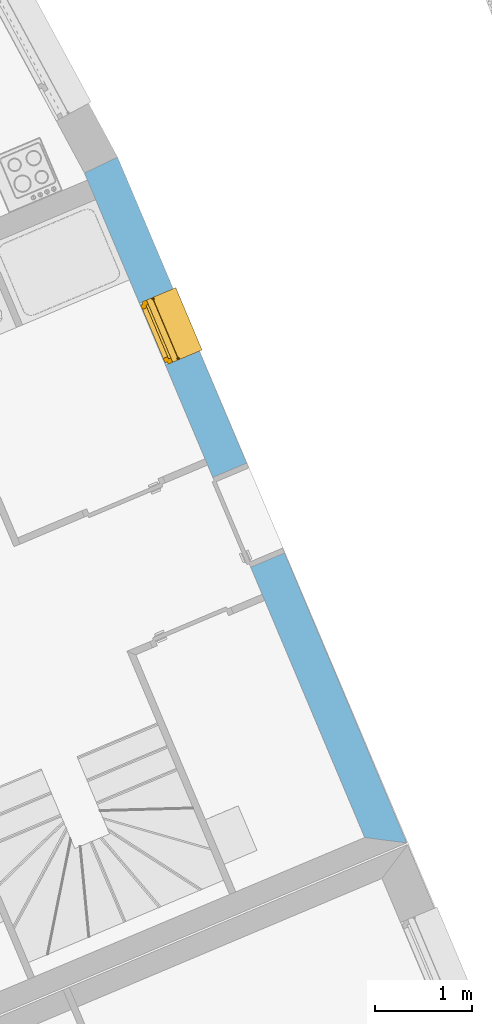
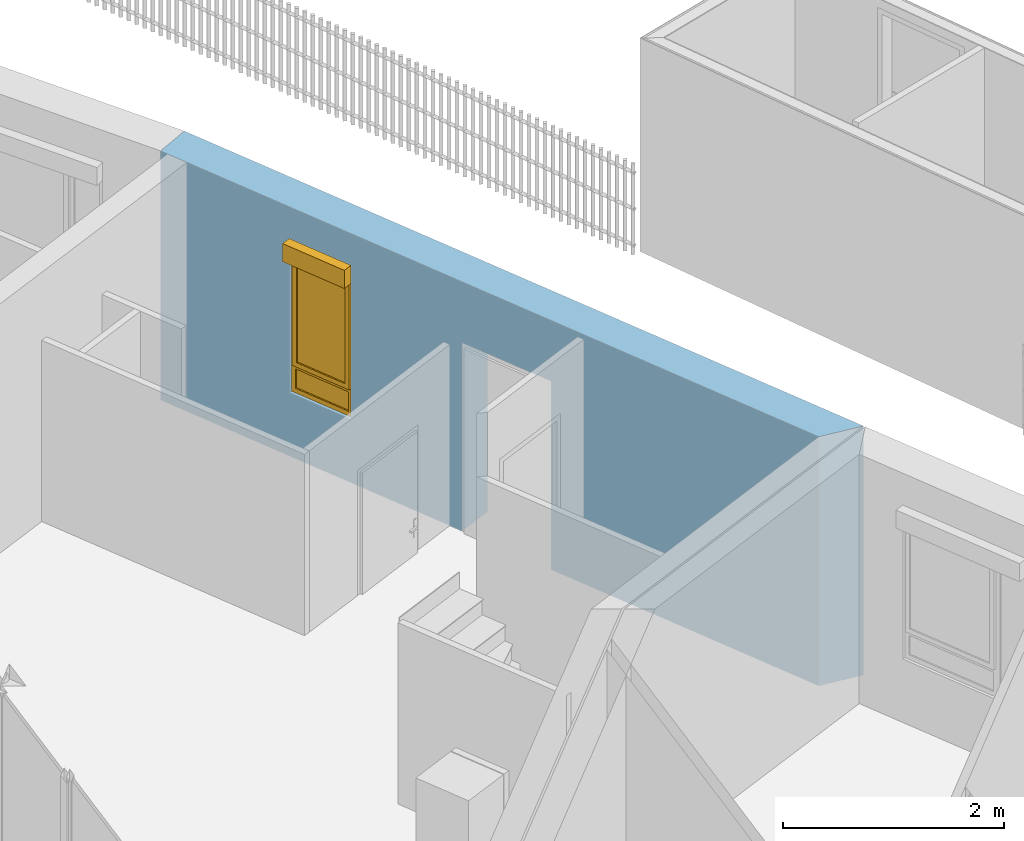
# One storey, part 64 of 195: 1 window, 2 openings, plus 1 element that does not belong to this part.
"""IFC2X3 building model written with IfcOpenShell, lengths in metres."""

from ifc_helpers import new_model, entity, si_unit, converted_unit, derived_unit, money_unit, direction, frame, origin_with_axes, origin_2d_with_axis, place, context, subcontext, project, spatial, polyline, rectangle, outline, extrude, open_shell, faceted_brep, surface_model, source, transform, mapped, material, layer, layer_set, layer_usage, type_object, element, fill, save


model = new_model("IFC2X3")

# Units and contexts
model_context = context("Model", 3, precision=1e-05, world=origin_with_axes(), true_north=direction((0.0, 1.0)))
body_context = subcontext(model_context, "Body", "Model", "MODEL_VIEW")
ifc_project = project(units=[si_unit("LENGTHUNIT", "METRE"), si_unit("AREAUNIT", "SQUARE_METRE"), si_unit("VOLUMEUNIT", "CUBIC_METRE"), converted_unit("PLANEANGLEUNIT", "DEGREE", entity("IfcPlaneAngleMeasure", 0.0174532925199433), si_unit("PLANEANGLEUNIT", "RADIAN"), dimensions=[0, 0, 0, 0, 0, 0, 0]), money_unit("CHF"), converted_unit("TIMEUNIT", "Year", entity("IfcTimeMeasure", 31557600.0), si_unit("TIMEUNIT", "SECOND"), dimensions=[0, 0, 1, 0, 0, 0, 0]), si_unit("MASSUNIT", "GRAM", prefix="KILO"), si_unit("THERMODYNAMICTEMPERATUREUNIT", "DEGREE_CELSIUS"), si_unit("LUMINOUSINTENSITYUNIT", "LUMEN"), si_unit("ENERGYUNIT", "JOULE", prefix="MEGA"), derived_unit("THERMALCONDUCTANCEUNIT", [(si_unit("POWERUNIT", "WATT"), 1), (si_unit("LENGTHUNIT", "METRE"), -1), (si_unit("THERMODYNAMICTEMPERATUREUNIT", "KELVIN"), -1)]), derived_unit("SPECIFICHEATCAPACITYUNIT", [(si_unit("ENERGYUNIT", "JOULE"), 1), (si_unit("MASSUNIT", "GRAM", prefix="KILO"), -1), (si_unit("THERMODYNAMICTEMPERATUREUNIT", "KELVIN"), -1)]), derived_unit("MASSDENSITYUNIT", [(si_unit("MASSUNIT", "GRAM", prefix="KILO"), 1), (si_unit("VOLUMEUNIT", "CUBIC_METRE"), -1)])], contexts=[model_context])

# Site, building, storey
site_placement = place(None, origin_with_axes())
site = spatial("IfcSite", under=ifc_project, at=site_placement, Name="Site", CompositionType="ELEMENT")
building_placement = place(site_placement, origin_with_axes())
building = spatial("IfcBuilding", under=site, at=building_placement, Name="Bâtiment", CompositionType="ELEMENT")
storey_placement = place(building_placement, origin_with_axes())
storey = spatial("IfcBuildingStorey", under=building, at=storey_placement, Name="rdc", CompositionType="ELEMENT", Elevation=0.0)

# Wall, openings, window
ifc_material_1 = material(Name="Parpaing 312445824")
ifc_layer_1 = layer(ifc_material_1, 0.22, ventilated="UNKNOWN")
ifc_material_2 = material(Name="Isolant styromousse 301821074")
ifc_layer_2 = layer(ifc_material_2, 0.16, ventilated="UNKNOWN")
ifc_layer_set = layer_set([ifc_layer_1, ifc_layer_2], Name="isol int 22+16 0836643197")
ifc_layer_usage = layer_usage(ifc_layer_set, "AXIS2", "NEGATIVE", 0.0)
wall_type = type_object("IfcWallType", Name="isol int 22+16 0836643197 380", PredefinedType="NOTDEFINED")
wall_placement = place(storey_placement, frame((9567.35521856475, -1035.243268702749, 57.7), z_axis=(0.0, 0.0, 1.0), x_axis=(0.388566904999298, -0.9214205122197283, 0.0)))
wall = element("IfcWallStandardCase", 1, at=wall_placement, inside=storey, type_object=wall_type, material=ifc_layer_usage, Name="Mur-113", context=body_context, shape_type="SweptSolid", body=[
    extrude(outline(polyline([(0.01830169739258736, -0.3799999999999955), (7.480677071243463, -0.3799999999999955), (7.700677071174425, 0.0), (0.0, 0.0), (0.01830169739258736, -0.3799999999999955)])), origin_with_axes(), (0.0, 0.0, 1.0), 2.75),
])
opening_1_placement = place(wall_placement, frame((3.941002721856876, 0.0, 0.0), z_axis=(0.0, 0.0, 1.0), x_axis=(1.0, 0.0, 0.0)))
element("IfcOpeningElement", 2, at=opening_1_placement, cuts=wall, Name="Por-290", context=body_context, shape_type="SweptSolid", body=[
    extrude(rectangle(XDim=1.01000001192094, YDim=2.079999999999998, at=origin_2d_with_axis()), frame((-5.960487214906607e-09, 0.3799999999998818, 1.039999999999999), z_axis=(0.0, -1.0, 0.0), x_axis=(-1.0, 0.0, 0.0)), (0.0, 0.0, 1.0), 0.76),
])
opening_2_placement = place(wall_placement, frame((1.828123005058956, 0.0, 0.7000000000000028), z_axis=(0.0, 0.0, 1.0), x_axis=(1.0, 0.0, 0.0)))
opening_2 = element("IfcOpeningElement", 3, at=opening_2_placement, cuts=wall, Name="Fen-047", context=body_context, shape_type="Brep", body=[
    faceted_brep([(-0.3500000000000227, -0.2200000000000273, 1.5), (0.3500000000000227, -0.2199999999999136, 1.5), (0.3500000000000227, 2.758100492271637, 1.5), (-0.3500000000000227, 2.758100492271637, 1.5), (-0.3500000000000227, -0.2200000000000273, 1.700000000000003), (0.3500000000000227, -0.2199999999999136, 1.700000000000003), (0.3500000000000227, -0.3000000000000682, 1.5), (0.3500000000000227, -0.3000000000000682, 0.0), (0.3500000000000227, 2.758100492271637, 0.0), (-0.3500000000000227, 2.758100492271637, 0.0), (-0.3499999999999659, -0.3000000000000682, 1.5), (-0.3500000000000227, -0.3000000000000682, 0.0), (-0.3499999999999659, -0.4800000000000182, 1.5), (-0.3499999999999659, -0.4800000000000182, 1.700000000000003), (0.3500000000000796, -0.4800000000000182, 1.700000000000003), (0.3500000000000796, -0.4800000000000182, 1.5), (0.3500000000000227, -3.138100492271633, 1.5), (0.3500000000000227, -3.138100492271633, 0.0), (-0.3500000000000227, -3.138100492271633, 0.0), (-0.3500000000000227, -3.138100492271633, 1.5)], [[[0, 1, 2, 3]], [[1, 0, 4, 5]], [[1, 6, 7, 8, 2]], [[2, 8, 9, 3]], [[10, 0, 3, 9, 11]], [[0, 10, 12, 13, 4]], [[14, 5, 4, 13]], [[6, 1, 5, 14, 15]], [[6, 15, 16, 17, 7]], [[7, 11, 9, 8]], [[12, 10, 11, 18, 19]], [[12, 15, 14, 13]], [[15, 12, 19, 16]], [[19, 18, 17, 16]], [[11, 7, 17, 18]]]),
])
window_style = type_object("IfcWindowStyle", Name="Fenêtre variable 27", ConstructionType="NOTDEFINED", OperationType="DOUBLE_PANEL_HORIZONTAL", ParameterTakesPrecedence=False, Sizeable=False)
shared_shape = source(origin_with_axes(), body_context, "Body", "SurfaceModel", [
    surface_model("IfcShellBasedSurfaceModel", [(0.3499999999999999, -0.051, 0.05), (-0.3499999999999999, -0.051, 0.05000000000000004), (-0.3499999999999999, -0.051, 0.04000000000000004), (0.3499999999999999, -0.051, 0.04), (-0.3499999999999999, -0.3799999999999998, 0.02899999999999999), (0.3499999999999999, -0.3799999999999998, 0.02899999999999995), (-0.3499999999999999, -0.3799999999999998, 0.008999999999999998), (0.3499999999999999, -0.3799999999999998, 0.008999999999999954), (-0.3499999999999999, -0.3699999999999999, 0.019), (0.3499999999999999, -0.3699999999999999, 0.01899999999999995)], [open_shell([[[0, 1, 2, 3]], [[3, 2, 4, 5]], [[5, 4, 6, 7]], [[7, 6, 8, 9]]])]),
    faceted_brep([(0.3499999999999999, -0.13, 1.7), (0.3499999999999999, 0.13, 1.7), (0.3469999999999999, 0.13, 1.7), (0.3469999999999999, -0.13, 1.7), (0.3499999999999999, -0.13, 1.5), (0.3499999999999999, 0.13, 1.5), (0.3469999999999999, 0.13, 1.5), (0.3469999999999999, -0.13, 1.5)], [[[0, 1, 2, 3]], [[0, 4, 5, 1]], [[1, 5, 6, 2]], [[3, 2, 6, 7]], [[4, 0, 3, 7]], [[5, 4, 7, 6]]]),
    faceted_brep([(-0.3469999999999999, -0.1299999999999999, 1.7), (-0.3469999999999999, 0.13, 1.7), (-0.3499999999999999, 0.13, 1.7), (-0.3499999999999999, -0.1299999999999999, 1.7), (-0.3469999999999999, -0.1299999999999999, 1.5), (-0.3469999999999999, 0.13, 1.5), (-0.3499999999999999, 0.13, 1.5), (-0.3499999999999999, -0.1299999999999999, 1.5)], [[[0, 1, 2, 3]], [[0, 4, 5, 1]], [[1, 5, 6, 2]], [[3, 2, 6, 7]], [[4, 0, 3, 7]], [[5, 4, 7, 6]]]),
    faceted_brep([(0.3469999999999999, -0.13, 1.5), (0.3469999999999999, -0.13, 1.7), (-0.3469999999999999, -0.1299999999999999, 1.7), (-0.3469999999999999, -0.1299999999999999, 1.5), (0.3469999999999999, -0.127, 1.5), (0.3469999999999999, -0.127, 1.697), (0.3469999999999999, 0.127, 1.697), (0.3469999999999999, 0.127, 1.503), (0.3469999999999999, -0.108, 1.503), (0.3469999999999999, -0.108, 1.5), (0.3469999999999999, 0.13, 1.5), (0.3469999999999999, 0.13, 1.7), (-0.3469999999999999, 0.13, 1.7), (-0.3469999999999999, 0.13, 1.5), (-0.3469999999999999, -0.1079999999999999, 1.5), (-0.3469999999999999, -0.1079999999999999, 1.503), (-0.3469999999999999, 0.127, 1.503), (-0.3469999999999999, 0.127, 1.697), (-0.3469999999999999, -0.1269999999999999, 1.697), (-0.3469999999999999, -0.1269999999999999, 1.5)], [[[0, 1, 2, 3]], [[0, 4, 5, 6, 7, 8, 9, 10, 11, 1]], [[1, 11, 12, 2]], [[3, 2, 12, 13, 14, 15, 16, 17, 18, 19]], [[4, 0, 3, 19]], [[5, 4, 19, 18]], [[6, 5, 18, 17]], [[7, 6, 17, 16]], [[8, 7, 16, 15]], [[9, 8, 15, 14]], [[10, 9, 14, 13]], [[11, 10, 13, 12]]]),
    faceted_brep([(0.3439999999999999, -0.0807542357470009, 1.585760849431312), (0.3439999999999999, -0.07705479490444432, 1.571954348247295), (0.3439999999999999, -0.07101408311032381, 1.559), (0.3439999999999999, -0.06281564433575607, 1.547291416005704), (0.3439999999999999, -0.05270858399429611, 1.537184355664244), (0.3439999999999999, -0.04099999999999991, 1.528985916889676), (0.3439999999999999, -0.02804565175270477, 1.522945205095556), (0.3439999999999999, -0.01423915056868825, 1.519245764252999), (0.3439999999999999, 0.0, 1.518), (0.3439999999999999, 0.01423915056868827, 1.519245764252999), (0.3439999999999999, 0.0280456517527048, 1.522945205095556), (0.3439999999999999, 0.04099999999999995, 1.528985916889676), (0.3439999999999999, 0.05270858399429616, 1.537184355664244), (0.3439999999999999, 0.06281564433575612, 1.547291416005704), (0.3439999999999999, 0.07101408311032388, 1.559), (0.3439999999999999, 0.0770547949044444, 1.571954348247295), (0.3439999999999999, 0.08075423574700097, 1.585760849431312), (0.3439999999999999, 0.08199999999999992, 1.6), (0.3439999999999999, 0.08075423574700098, 1.614239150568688), (0.3439999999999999, 0.07705479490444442, 1.628045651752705), (0.3439999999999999, 0.0710140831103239, 1.641), (0.3439999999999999, 0.06281564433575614, 1.652708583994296), (0.3439999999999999, 0.05270858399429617, 1.662815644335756), (0.3439999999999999, 0.04099999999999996, 1.671014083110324), (0.3439999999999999, 0.02804565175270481, 1.677054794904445), (0.3439999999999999, 0.01423915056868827, 1.680754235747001), (0.3439999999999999, 0.0, 1.682), (0.3439999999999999, -0.01423915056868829, 1.680754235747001), (0.3439999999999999, -0.02804565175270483, 1.677054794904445), (0.3439999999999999, -0.04099999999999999, 1.671014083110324), (0.3439999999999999, -0.0527085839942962, 1.662815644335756), (0.3439999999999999, -0.06281564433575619, 1.652708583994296), (0.3439999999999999, -0.07101408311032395, 1.641), (0.3439999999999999, -0.07705479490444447, 1.628045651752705), (0.3439999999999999, -0.08075423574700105, 1.614239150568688), (0.3439999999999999, -0.08199999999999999, 1.6), (-0.3439999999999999, -0.08075423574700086, 1.585760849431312), (-0.3439999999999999, -0.07705479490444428, 1.571954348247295), (-0.3439999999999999, -0.07101408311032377, 1.559), (-0.3439999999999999, -0.06281564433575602, 1.547291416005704), (-0.3439999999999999, -0.05270858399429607, 1.537184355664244), (-0.3439999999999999, -0.04099999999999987, 1.528985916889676), (-0.3439999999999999, -0.02804565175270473, 1.522945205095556), (-0.3439999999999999, -0.01423915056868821, 1.519245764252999), (-0.3439999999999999, 0.0, 1.518), (-0.3439999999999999, 0.01423915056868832, 1.519245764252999), (-0.3439999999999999, 0.02804565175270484, 1.522945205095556), (-0.3439999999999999, 0.04099999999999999, 1.528985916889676), (-0.3439999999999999, 0.0527085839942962, 1.537184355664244), (-0.3439999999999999, 0.06281564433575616, 1.547291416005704), (-0.3439999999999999, 0.07101408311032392, 1.559), (-0.3439999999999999, 0.07705479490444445, 1.571954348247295), (-0.3439999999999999, 0.08075423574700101, 1.585760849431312), (-0.3439999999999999, 0.08199999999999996, 1.6), (-0.3439999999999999, 0.08075423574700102, 1.614239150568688), (-0.3439999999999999, 0.07705479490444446, 1.628045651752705), (-0.3439999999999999, 0.07101408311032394, 1.641), (-0.3439999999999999, 0.06281564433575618, 1.652708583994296), (-0.3439999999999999, 0.05270858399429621, 1.662815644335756), (-0.3439999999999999, 0.041, 1.671014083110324), (-0.3439999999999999, 0.02804565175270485, 1.677054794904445), (-0.3439999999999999, 0.01423915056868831, 1.680754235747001), (-0.3439999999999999, 0.0, 1.682), (-0.3439999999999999, -0.01423915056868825, 1.680754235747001), (-0.3439999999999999, -0.02804565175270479, 1.677054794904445), (-0.3439999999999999, -0.04099999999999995, 1.671014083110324), (-0.3439999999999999, -0.05270858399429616, 1.662815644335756), (-0.3439999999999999, -0.06281564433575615, 1.652708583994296), (-0.3439999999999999, -0.07101408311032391, 1.641), (-0.3439999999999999, -0.07705479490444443, 1.628045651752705), (-0.3439999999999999, -0.08075423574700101, 1.614239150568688), (-0.3439999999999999, -0.08199999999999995, 1.6)], [[[0, 1, 2, 3, 4, 5, 6, 7, 8, 9, 10, 11, 12, 13, 14, 15, 16, 17, 18, 19, 20, 21, 22, 23, 24, 25, 26, 27, 28, 29, 30, 31, 32, 33, 34, 35]], [[1, 0, 36, 37]], [[2, 1, 37, 38]], [[3, 2, 38, 39]], [[4, 3, 39, 40]], [[5, 4, 40, 41]], [[6, 5, 41, 42]], [[7, 6, 42, 43]], [[8, 7, 43, 44]], [[9, 8, 44, 45]], [[10, 9, 45, 46]], [[11, 10, 46, 47]], [[12, 11, 47, 48]], [[13, 12, 48, 49]], [[14, 13, 49, 50]], [[15, 14, 50, 51]], [[16, 15, 51, 52]], [[17, 16, 52, 53]], [[18, 17, 53, 54]], [[19, 18, 54, 55]], [[20, 19, 55, 56]], [[21, 20, 56, 57]], [[22, 21, 57, 58]], [[23, 22, 58, 59]], [[24, 23, 59, 60]], [[25, 24, 60, 61]], [[26, 25, 61, 62]], [[27, 26, 62, 63]], [[28, 27, 63, 64]], [[29, 28, 64, 65]], [[30, 29, 65, 66]], [[31, 30, 66, 67]], [[32, 31, 67, 68]], [[33, 32, 68, 69]], [[34, 33, 69, 70]], [[35, 34, 70, 71]], [[0, 35, 71, 36]], [[36, 71, 70, 69, 68, 67, 66, 65, 64, 63, 62, 61, 60, 59, 58, 57, 56, 55, 54, 53, 52, 51, 50, 49, 48, 47, 46, 45, 44, 43, 42, 41, 40, 39, 38, 37]]]),
    faceted_brep([(-0.3499999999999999, -0.105, 0.03), (-0.3499999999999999, -0.1299999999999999, 0.03), (-0.3499999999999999, -0.1299999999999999, 1.5), (-0.3499999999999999, -0.1049999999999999, 1.5), (-0.3249999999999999, -0.105, 0.03), (-0.3249999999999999, -0.108, 0.03), (-0.3469999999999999, -0.108, 0.03), (-0.3469999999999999, -0.1269999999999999, 0.03), (-0.3249999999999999, -0.1269999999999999, 0.03), (-0.3249999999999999, -0.1299999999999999, 0.03), (-0.3249999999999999, -0.1299999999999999, 1.5), (-0.3249999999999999, -0.1269999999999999, 1.5), (-0.3469999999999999, -0.1269999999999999, 1.5), (-0.3469999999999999, -0.1079999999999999, 1.5), (-0.3249999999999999, -0.1079999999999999, 1.5), (-0.3249999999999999, -0.1049999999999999, 1.5)], [[[0, 1, 2, 3]], [[0, 4, 5, 6, 7, 8, 9, 1]], [[1, 9, 10, 2]], [[3, 2, 10, 11, 12, 13, 14, 15]], [[4, 0, 3, 15]], [[5, 4, 15, 14]], [[6, 5, 14, 13]], [[7, 6, 13, 12]], [[8, 7, 12, 11]], [[9, 8, 11, 10]]]),
    faceted_brep([(0.3499999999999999, -0.105, 0.03), (0.3499999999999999, -0.1049999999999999, 1.5), (0.3499999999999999, -0.1299999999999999, 1.5), (0.3499999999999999, -0.1299999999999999, 0.03), (0.3249999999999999, -0.105, 0.03), (0.3249999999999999, -0.1049999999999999, 1.5), (0.3249999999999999, -0.1079999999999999, 1.5), (0.3469999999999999, -0.1079999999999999, 1.5), (0.3469999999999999, -0.1269999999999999, 1.5), (0.3249999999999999, -0.1269999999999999, 1.5), (0.3249999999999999, -0.1299999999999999, 1.5), (0.3249999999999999, -0.1299999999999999, 0.03), (0.3249999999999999, -0.1269999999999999, 0.03), (0.3469999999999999, -0.1269999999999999, 0.03), (0.3469999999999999, -0.108, 0.03), (0.3249999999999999, -0.108, 0.03)], [[[0, 1, 2, 3]], [[4, 5, 1, 0]], [[1, 5, 6, 7, 8, 9, 10, 2]], [[3, 2, 10, 11]], [[0, 3, 11, 12, 13, 14, 15, 4]], [[15, 6, 5, 4]], [[14, 7, 6, 15]], [[13, 8, 7, 14]], [[12, 9, 8, 13]], [[11, 10, 9, 12]]]),
    surface_model("IfcShellBasedSurfaceModel", [(0.3469999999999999, -0.115, 1.6), (-0.3469999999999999, -0.1149999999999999, 1.6), (-0.3469999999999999, -0.12, 1.6), (0.3469999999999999, -0.12, 1.6), (0.3469999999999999, -0.115, 1.6), (0.3469999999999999, -0.12, 1.6), (-0.3469999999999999, -0.1199999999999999, 1.6), (-0.3469999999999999, -0.1149999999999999, 1.6)], [open_shell([[[0, 1, 2, 3]], [[4, 5, 6, 7]]])]),
    faceted_brep([(0.3469999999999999, -0.115, 1.6), (0.3469999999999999, -0.1166666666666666, 1.583333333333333), (-0.3469999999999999, -0.1166666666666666, 1.583333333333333), (-0.3469999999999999, -0.1149999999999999, 1.6), (0.3469999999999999, -0.12, 1.6), (0.3469999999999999, -0.1216666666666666, 1.583333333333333), (0.3469999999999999, -0.1216666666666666, 1.566666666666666), (0.3469999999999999, -0.12, 1.55), (0.3469999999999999, -0.115, 1.55), (0.3469999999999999, -0.1166666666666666, 1.566666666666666), (-0.3469999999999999, -0.1166666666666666, 1.566666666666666), (-0.3469999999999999, -0.1149999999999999, 1.55), (-0.3469999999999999, -0.1199999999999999, 1.55), (-0.3469999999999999, -0.1216666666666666, 1.566666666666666), (-0.3469999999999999, -0.1216666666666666, 1.583333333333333), (-0.3469999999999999, -0.1199999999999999, 1.6)], [[[0, 1, 2, 3]], [[0, 4, 5, 6, 7, 8, 9, 1]], [[1, 9, 10, 2]], [[3, 2, 10, 11, 12, 13, 14, 15]], [[4, 0, 3, 15]], [[5, 4, 15, 14]], [[6, 5, 14, 13]], [[7, 6, 13, 12]], [[8, 7, 12, 11]], [[9, 8, 11, 10]]]),
    faceted_brep([(0.3469999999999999, -0.115, 1.55), (0.3469999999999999, -0.1166666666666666, 1.533333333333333), (-0.3469999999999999, -0.1166666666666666, 1.533333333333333), (-0.3469999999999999, -0.1149999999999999, 1.55), (0.3469999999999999, -0.12, 1.55), (0.3469999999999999, -0.1216666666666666, 1.533333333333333), (0.3469999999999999, -0.1216666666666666, 1.516666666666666), (0.3469999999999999, -0.12, 1.5), (0.3469999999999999, -0.115, 1.5), (0.3469999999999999, -0.1166666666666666, 1.516666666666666), (-0.3469999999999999, -0.1166666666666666, 1.516666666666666), (-0.3469999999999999, -0.1149999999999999, 1.5), (-0.3469999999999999, -0.1199999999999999, 1.5), (-0.3469999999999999, -0.1216666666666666, 1.516666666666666), (-0.3469999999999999, -0.1216666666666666, 1.533333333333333), (-0.3469999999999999, -0.1199999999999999, 1.55)], [[[0, 1, 2, 3]], [[0, 4, 5, 6, 7, 8, 9, 1]], [[1, 9, 10, 2]], [[3, 2, 10, 11, 12, 13, 14, 15]], [[4, 0, 3, 15]], [[5, 4, 15, 14]], [[6, 5, 14, 13]], [[7, 6, 13, 12]], [[8, 7, 12, 11]], [[9, 8, 11, 10]]]),
    faceted_brep([(0.325, 0.0, 1.45), (0.325, -0.02500000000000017, 1.45), (0.2999999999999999, -0.02500000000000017, 1.45), (0.2999999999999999, -0.05000000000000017, 1.45), (0.3499999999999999, -0.05000000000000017, 1.45), (0.3499999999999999, 0.0, 1.45), (0.325, 0.0, 0.3099999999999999), (0.325, -0.02500000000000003, 0.3099999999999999), (0.2999999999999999, -0.02500000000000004, 0.335), (0.2999999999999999, -0.02500000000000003, 0.3099999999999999), (0.2999999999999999, -0.05000000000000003, 0.335), (0.2999999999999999, -0.05000000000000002, 0.265), (0.2999999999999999, -0.05, 0.05000000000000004), (0.3499999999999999, -0.05, 0.05000000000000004), (0.3499999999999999, 0.0, 0.05000000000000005), (0.2999999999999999, 0.0, 0.05000000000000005), (0.2999999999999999, 0.0, 0.265), (0.2999999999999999, 0.0, 0.3099999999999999)], [[[0, 1, 2, 3, 4, 5]], [[1, 0, 6, 7]], [[8, 2, 1, 7, 9]], [[2, 8, 10, 3]], [[10, 11, 12, 13, 4, 3]], [[5, 4, 13, 14]], [[6, 0, 5, 14, 15, 16, 17]], [[6, 17, 9, 7]], [[9, 17, 16, 11, 10, 8]], [[15, 12, 11, 16]], [[14, 13, 12, 15]]]),
    faceted_brep([(-0.2999999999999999, -0.02500000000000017, 1.45), (-0.325, -0.02500000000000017, 1.45), (-0.325, 0.0, 1.45), (-0.3499999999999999, 0.0, 1.45), (-0.3499999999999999, -0.05000000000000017, 1.45), (-0.2999999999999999, -0.05000000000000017, 1.45), (-0.2999999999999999, -0.02500000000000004, 0.335), (-0.2999999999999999, -0.02500000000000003, 0.3099999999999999), (-0.325, -0.02500000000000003, 0.3099999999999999), (-0.325, 0.0, 0.3099999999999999), (-0.2999999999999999, 0.0, 0.3099999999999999), (-0.2999999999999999, 0.0, 0.265), (-0.2999999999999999, 0.0, 0.05000000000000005), (-0.3499999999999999, 0.0, 0.05000000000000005), (-0.3499999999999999, -0.05, 0.05000000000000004), (-0.2999999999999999, -0.05, 0.05000000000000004), (-0.2999999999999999, -0.05000000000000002, 0.265), (-0.2999999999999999, -0.05000000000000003, 0.335)], [[[0, 1, 2, 3, 4, 5]], [[1, 0, 6, 7, 8]], [[9, 2, 1, 8]], [[9, 10, 11, 12, 13, 3, 2]], [[13, 14, 4, 3]], [[14, 15, 16, 17, 5, 4]], [[6, 0, 5, 17]], [[7, 6, 17, 16, 11, 10]], [[10, 9, 8, 7]], [[11, 16, 15, 12]], [[12, 15, 14, 13]]]),
    faceted_brep([(0.2999999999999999, -0.02500000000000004, 0.335), (-0.2999999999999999, -0.02500000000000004, 0.335), (-0.2999999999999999, -0.05000000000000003, 0.335), (0.2999999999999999, -0.05000000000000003, 0.335), (-0.2999999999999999, -0.02500000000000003, 0.3099999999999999), (0.2999999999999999, -0.02500000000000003, 0.3099999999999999), (-0.2999999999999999, 0.0, 0.3099999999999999), (-0.2999999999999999, 0.0, 0.265), (-0.2999999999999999, -0.05000000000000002, 0.265), (0.2999999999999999, -0.05000000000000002, 0.265), (0.2999999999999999, 0.0, 0.265), (0.2999999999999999, 0.0, 0.3099999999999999)], [[[0, 1, 2, 3]], [[4, 1, 0, 5]], [[4, 6, 7, 8, 2, 1]], [[8, 9, 3, 2]], [[5, 0, 3, 9, 10, 11]], [[11, 6, 4, 5]], [[6, 11, 10, 7]], [[10, 9, 8, 7]]]),
    faceted_brep([(0.325, 0.0, 1.45), (0.325, 0.0, 1.475), (-0.325, 0.0, 1.475), (-0.325, 0.0, 1.45), (-0.3499999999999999, 0.0, 1.45), (-0.3499999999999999, 0.0, 1.5), (0.3499999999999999, 0.0, 1.5), (0.3499999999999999, 0.0, 1.45), (0.325, -0.02500000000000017, 1.45), (0.325, -0.02500000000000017, 1.475), (-0.325, -0.02500000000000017, 1.475), (-0.325, -0.02500000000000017, 1.45), (-0.2999999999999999, -0.02500000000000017, 1.45), (-0.2999999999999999, -0.05000000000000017, 1.45), (-0.3499999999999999, -0.05000000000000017, 1.45), (-0.3499999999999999, -0.05000000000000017, 1.5), (0.3499999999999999, -0.05000000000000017, 1.5), (0.3499999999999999, -0.05000000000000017, 1.45), (0.2999999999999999, -0.05000000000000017, 1.45), (0.2999999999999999, -0.02500000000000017, 1.45)], [[[0, 1, 2, 3, 4, 5, 6, 7]], [[1, 0, 8, 9]], [[2, 1, 9, 10]], [[3, 2, 10, 11]], [[11, 12, 13, 14, 4, 3]], [[4, 14, 15, 5]], [[5, 15, 16, 6]], [[6, 16, 17, 7]], [[8, 0, 7, 17, 18, 19]], [[12, 11, 10, 9, 8, 19]], [[12, 19, 18, 13]], [[14, 13, 18, 17, 16, 15]]]),
    faceted_brep([(0.2999999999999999, -0.05, 0.05), (0.3499999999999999, -0.05, 0.05), (0.3499999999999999, 0.0, 0.05000000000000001), (0.2999999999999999, 0.0, 0.05000000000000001), (-0.2999999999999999, -0.05, 0.05), (-0.3499999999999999, -0.05, 0.05), (-0.3499999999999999, -0.04999999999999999, 0.0), (0.3499999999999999, -0.04999999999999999, 0.0), (0.3499999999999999, 0.0, 0.0), (-0.3499999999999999, 0.0, 0.0), (-0.3499999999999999, 0.0, 0.05000000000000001), (-0.2999999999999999, 0.0, 0.05000000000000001)], [[[0, 1, 2, 3]], [[0, 4, 5, 6, 7, 1]], [[1, 7, 8, 2]], [[3, 2, 8, 9, 10, 11]], [[4, 0, 3, 11]], [[5, 4, 11, 10]], [[6, 5, 10, 9]], [[7, 6, 9, 8]]]),
    faceted_brep([(0.275, -0.02500000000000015, 1.425), (0.325, -0.02500000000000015, 1.425), (0.325, 0.02499999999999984, 1.425), (0.275, 0.02499999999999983, 1.425), (0.275, -0.02500000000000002, 0.3599999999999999), (0.325, -0.02500000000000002, 0.3599999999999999), (0.325, 0.02499999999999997, 0.3599999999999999), (0.275, 0.02499999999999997, 0.3599999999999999)], [[[0, 1, 2, 3]], [[0, 4, 5, 1]], [[1, 5, 6, 2]], [[3, 2, 6, 7]], [[4, 0, 3, 7]], [[5, 4, 7, 6]]]),
    faceted_brep([(-0.275, -0.02500000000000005, 0.3599999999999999), (-0.325, -0.02500000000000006, 0.3599999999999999), (-0.325, 0.02499999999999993, 0.3599999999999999), (-0.275, 0.02499999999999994, 0.3599999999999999), (-0.275, -0.02500000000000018, 1.425), (-0.325, -0.02500000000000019, 1.425), (-0.325, 0.0249999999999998, 1.425), (-0.275, 0.02499999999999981, 1.425)], [[[0, 1, 2, 3]], [[0, 4, 5, 1]], [[1, 5, 6, 2]], [[3, 2, 6, 7]], [[4, 0, 3, 7]], [[5, 4, 7, 6]]]),
    faceted_brep([(-0.325, -0.02500000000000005, 0.3099999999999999), (-0.325, -0.02500000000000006, 0.3599999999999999), (-0.325, 0.02499999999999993, 0.3599999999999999), (-0.325, 0.02499999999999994, 0.3099999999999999), (0.325, -0.02500000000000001, 0.3099999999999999), (0.325, -0.02500000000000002, 0.3599999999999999), (0.275, -0.02500000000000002, 0.3599999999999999), (-0.275, -0.02500000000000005, 0.3599999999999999), (-0.275, 0.02499999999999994, 0.3599999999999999), (0.275, 0.02499999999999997, 0.3599999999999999), (0.325, 0.02499999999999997, 0.3599999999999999), (0.325, 0.02499999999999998, 0.3099999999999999)], [[[0, 1, 2, 3]], [[0, 4, 5, 6, 7, 1]], [[1, 7, 8, 2]], [[3, 2, 8, 9, 10, 11]], [[4, 0, 3, 11]], [[5, 4, 11, 10]], [[6, 5, 10, 9]], [[7, 6, 9, 8]]]),
    faceted_brep([(0.325, -0.02500000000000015, 1.475), (0.325, -0.02500000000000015, 1.425), (0.325, 0.02499999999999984, 1.425), (0.325, 0.02499999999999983, 1.475), (-0.325, -0.02500000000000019, 1.475), (-0.325, -0.02500000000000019, 1.425), (-0.275, -0.02500000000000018, 1.425), (0.275, -0.02500000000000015, 1.425), (0.275, 0.02499999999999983, 1.425), (-0.275, 0.02499999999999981, 1.425), (-0.325, 0.0249999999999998, 1.425), (-0.325, 0.02499999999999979, 1.475)], [[[0, 1, 2, 3]], [[0, 4, 5, 6, 7, 1]], [[1, 7, 8, 2]], [[3, 2, 8, 9, 10, 11]], [[4, 0, 3, 11]], [[5, 4, 11, 10]], [[6, 5, 10, 9]], [[7, 6, 9, 8]]]),
    surface_model("IfcShellBasedSurfaceModel", [(0.275, -0.01000000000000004, 0.3599999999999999), (0.275, -0.01000000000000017, 1.425), (-0.275, -0.01000000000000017, 1.425), (-0.275, -0.01000000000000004, 0.3599999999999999)], [open_shell([[[0, 1, 2, 3]]])]),
    surface_model("IfcShellBasedSurfaceModel", [(0.275, 0.009999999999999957, 0.3599999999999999), (-0.275, 0.009999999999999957, 0.3599999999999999), (-0.275, 0.009999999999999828, 1.425), (0.275, 0.009999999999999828, 1.425)], [open_shell([[[0, 1, 2, 3]]])]),
    surface_model("IfcShellBasedSurfaceModel", [(0.2999999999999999, -0.035, 0.05), (0.2999999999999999, -0.03500000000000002, 0.265), (-0.2999999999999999, -0.03500000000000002, 0.265), (-0.2999999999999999, -0.035, 0.05)], [open_shell([[[0, 1, 2, 3]]])]),
    surface_model("IfcShellBasedSurfaceModel", [(0.2999999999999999, -0.015, 0.05), (-0.2999999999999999, -0.015, 0.05), (-0.2999999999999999, -0.01500000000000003, 0.265), (0.2999999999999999, -0.01500000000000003, 0.265)], [open_shell([[[0, 1, 2, 3]]])]),
])
window_placement = place(opening_2_placement, frame((0.3500000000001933, 0.0, 0.0), z_axis=(0.0, 0.0, 1.0), x_axis=(-1.0, 0.0, 0.0)))
window = element("IfcWindow", 4, at=window_placement, inside=storey, type_object=window_style, Name="Fen-047", OverallHeight=1.5, OverallWidth=0.7, context=body_context, shape_type="MappedRepresentation", body=[
    mapped(shared_shape, transform((0.3500000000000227, 0.3499999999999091, 0.0))),
])
fill(opening_2, window)

save(model, "model.ifc")
